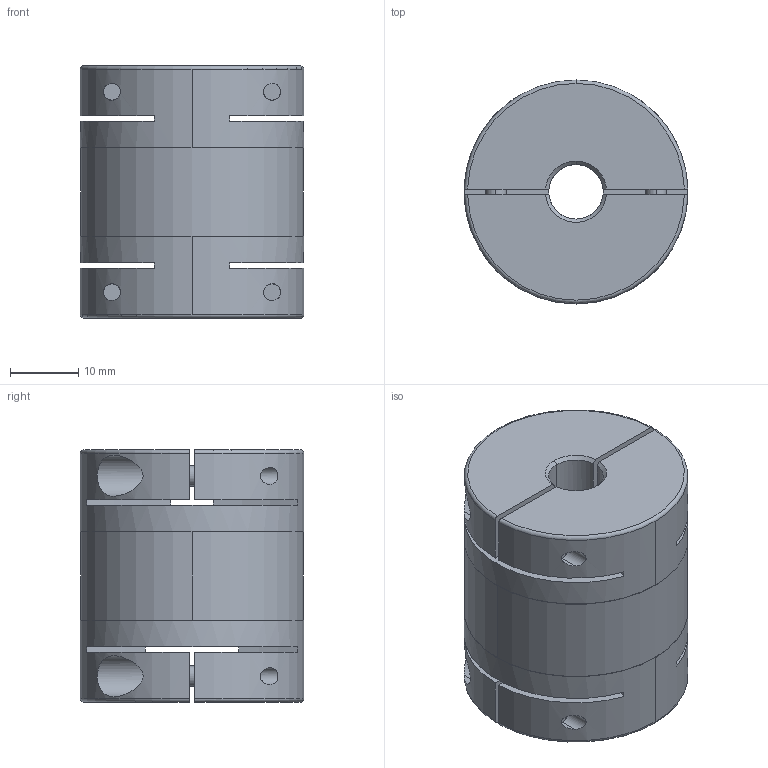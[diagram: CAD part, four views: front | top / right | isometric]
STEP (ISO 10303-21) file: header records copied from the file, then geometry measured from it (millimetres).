
FILE_DESCRIPTION (( 'STEP AP203' ), '1' );
FILE_NAME ('SHR-33C-8X15_203.STEP', '2013-05-19T03:44:50', ( 'Z77' ), ( '' ), 'SwSTEP 2.0', 'SolidWorks 2012', '' );
FILE_SCHEMA (( 'CONFIG_CONTROL_DESIGN' ));
Length unit declared in the file: millimetre
Products named in the file (1): SHR-33C-8X15_203
Bounding box: 32.8 x 32.8 x 37 mm (x, y, z)
Volume: 23961.3 mm3; surface area: 10679.8 mm2
Topology: 1 solids, 1 shells, 228 faces, 532 edges, 320 vertices
Faces by surface type: plane 92, cylinder 76, cone 30, torus 30
Entity records: 6983 total; most frequent: CARTESIAN_POINT 1585, DIRECTION 1204, ORIENTED_EDGE 1048, EDGE_CURVE 524, AXIS2_PLACEMENT_3D 483, VERTEX_POINT 320, EDGE_LOOP 260, CIRCLE 254
